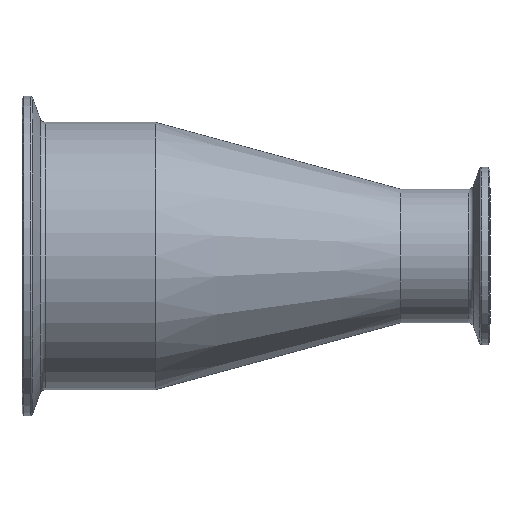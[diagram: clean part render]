
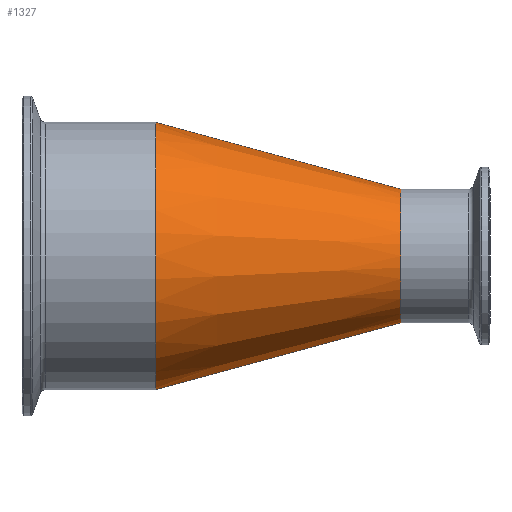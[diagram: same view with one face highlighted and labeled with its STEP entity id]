
A CAD part, front view. The second image highlights one B-rep face of the part: STEP entity #1327.
In plain terms, the highlighted conical face has half-angle 15.255 degrees and reference radius 38.1 mm.
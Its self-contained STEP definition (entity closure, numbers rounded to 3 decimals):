
#16 = VECTOR ( 'NONE', #716, 1000. ) ;
#17 = EDGE_LOOP ( 'NONE', ( #285, #483, #202, #108 ) ) ;
#78 = AXIS2_PLACEMENT_3D ( 'NONE', #451, #721, #1436 ) ;
#82 = VERTEX_POINT ( 'NONE', #1404 ) ;
#107 = AXIS2_PLACEMENT_3D ( 'NONE', #1329, #1335, #1101 ) ;
#108 = ORIENTED_EDGE ( 'NONE', *, *, #1419, .F. ) ;
#121 = EDGE_CURVE ( 'NONE', #701, #160, #1559, .T. ) ;
#156 = CONICAL_SURFACE ( 'NONE', #107, 38.1, 0.266 ) ;
#160 = VERTEX_POINT ( 'NONE', #593 ) ;
#202 = ORIENTED_EDGE ( 'NONE', *, *, #121, .T. ) ;
#221 = CARTESIAN_POINT ( 'NONE',  ( 107.95, 0., 19.05 ) ) ;
#285 = ORIENTED_EDGE ( 'NONE', *, *, #528, .F. ) ;
#362 = DIRECTION ( 'NONE',  ( 0., 0., 1. ) ) ;
#369 = DIRECTION ( 'NONE',  ( -1., 0., 0. ) ) ;
#382 = CIRCLE ( 'NONE', #1316, 19.05 ) ;
#451 = CARTESIAN_POINT ( 'NONE',  ( 38.1, 0., 0. ) ) ;
#464 = CARTESIAN_POINT ( 'NONE',  ( 107.95, 0., 0. ) ) ;
#483 = ORIENTED_EDGE ( 'NONE', *, *, #1210, .T. ) ;
#528 = EDGE_CURVE ( 'NONE', #82, #1151, #992, .T. ) ;
#593 = CARTESIAN_POINT ( 'NONE',  ( 38.1, 0., 38.1 ) ) ;
#701 = VERTEX_POINT ( 'NONE', #221 ) ;
#716 = DIRECTION ( 'NONE',  ( -0.965, 0., -0.263 ) ) ;
#721 = DIRECTION ( 'NONE',  ( -1., 0., 0. ) ) ;
#763 = CARTESIAN_POINT ( 'NONE',  ( 38.1, 0., -38.1 ) ) ;
#992 = LINE ( 'NONE', #763, #16 ) ;
#1091 = VECTOR ( 'NONE', #1294, 1000. ) ;
#1101 = DIRECTION ( 'NONE',  ( 0., 0., 1. ) ) ;
#1142 = CIRCLE ( 'NONE', #78, 38.1 ) ;
#1151 = VERTEX_POINT ( 'NONE', #1588 ) ;
#1210 = EDGE_CURVE ( 'NONE', #82, #701, #382, .T. ) ;
#1294 = DIRECTION ( 'NONE',  ( -0.965, 0., 0.263 ) ) ;
#1316 = AXIS2_PLACEMENT_3D ( 'NONE', #464, #369, #362 ) ;
#1327 = ADVANCED_FACE ( 'NONE', ( #1469 ), #156, .T. ) ;
#1329 = CARTESIAN_POINT ( 'NONE',  ( 38.1, 0., 0. ) ) ;
#1335 = DIRECTION ( 'NONE',  ( -1., 0., 0. ) ) ;
#1401 = CARTESIAN_POINT ( 'NONE',  ( 38.1, 0., 38.1 ) ) ;
#1404 = CARTESIAN_POINT ( 'NONE',  ( 107.95, 0., -19.05 ) ) ;
#1419 = EDGE_CURVE ( 'NONE', #1151, #160, #1142, .T. ) ;
#1436 = DIRECTION ( 'NONE',  ( 0., 0., 1. ) ) ;
#1469 = FACE_OUTER_BOUND ( 'NONE', #17, .T. ) ;
#1559 = LINE ( 'NONE', #1401, #1091 ) ;
#1588 = CARTESIAN_POINT ( 'NONE',  ( 38.1, 0., -38.1 ) ) ;
